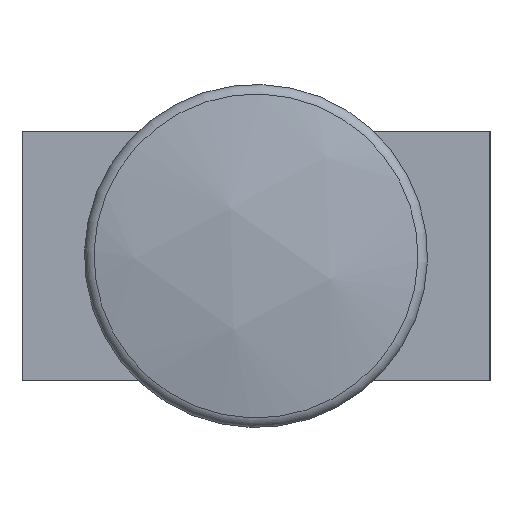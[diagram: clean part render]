
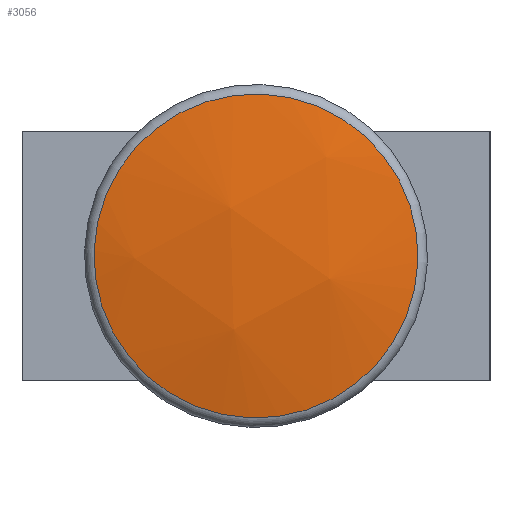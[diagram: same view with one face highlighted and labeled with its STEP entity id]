
A CAD part, left-side view. The second image highlights one B-rep face of the part: STEP entity #3056.
In plain terms, the highlighted spherical face has radius 45 mm.
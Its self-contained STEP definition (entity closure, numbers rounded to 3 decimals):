
#22=SPHERICAL_SURFACE('',#3280,45.);
#878=ORIENTED_EDGE('',*,*,#1162,.T.);
#1162=EDGE_CURVE('',#1359,#1359,#1453,.T.);
#1359=VERTEX_POINT('',#5370);
#1453=CIRCLE('',#3279,10.385);
#1670=EDGE_LOOP('',(#878));
#1908=FACE_BOUND('',#1670,.T.);
#3056=ADVANCED_FACE('',(#1908),#22,.T.);
#3279=AXIS2_PLACEMENT_3D('',#5369,#3803,#3804);
#3280=AXIS2_PLACEMENT_3D('',#5371,#3805,#3806);
#3803=DIRECTION('',(-1.,0.,0.));
#3804=DIRECTION('',(0.,-0.47,-0.883));
#3805=DIRECTION('',(0.,-0.47,-0.883));
#3806=DIRECTION('',(1.,0.,0.));
#5369=CARTESIAN_POINT('',(-71.085,0.,0.));
#5370=CARTESIAN_POINT('',(-71.085,-4.876,-9.169));
#5371=CARTESIAN_POINT('',(-27.3,0.,0.));
